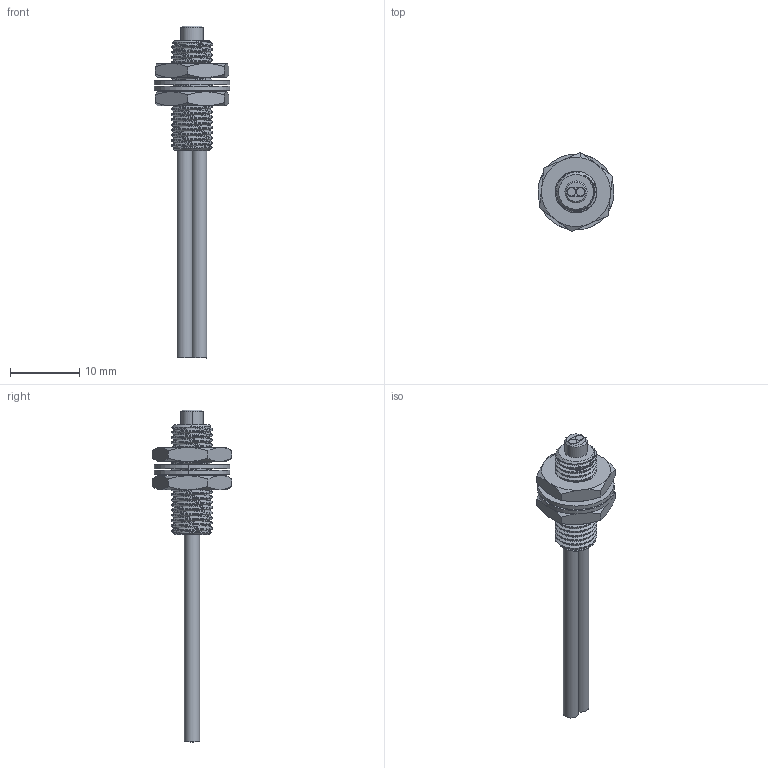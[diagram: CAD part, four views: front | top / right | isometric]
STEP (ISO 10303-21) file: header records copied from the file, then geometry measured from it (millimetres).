
FILE_DESCRIPTION (( 'STEP AP214' ), '1' );
FILE_NAME ('FD-620-13B.STEP', '2019-06-18T02:33:14', ( '' ), ( '' ), 'SwSTEP 2.0', 'SolidWorks 2018', '' );
FILE_SCHEMA (( 'AUTOMOTIVE_DESIGN' ));
Length unit declared in the file: millimetre
Products named in the file (1): FD-620-13B
Bounding box: 10.97 x 11.47 x 48 mm (x, y, z)
Volume: 936.5 mm3; surface area: 1624.3 mm2
Topology: 5 solids, 5 shells, 215 faces, 577 edges, 377 vertices
Faces by surface type: cylinder 96, plane 63, cone 47, bspline 9
Entity records: 11914 total; most frequent: CARTESIAN_POINT 6768, ORIENTED_EDGE 1154, DIRECTION 950, EDGE_CURVE 577, VERTEX_POINT 377, AXIS2_PLACEMENT_3D 358, VECTOR 234, LINE 234
